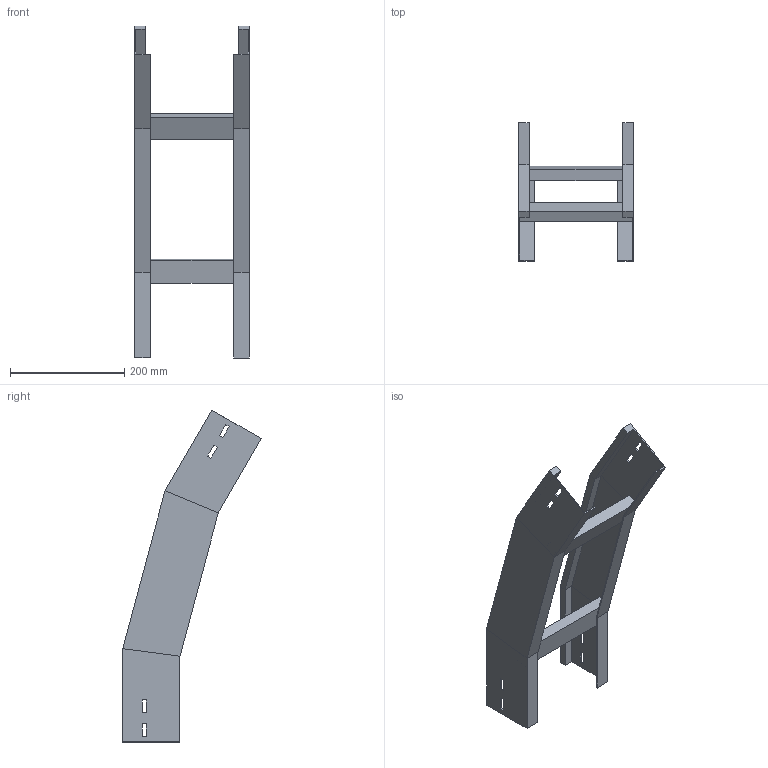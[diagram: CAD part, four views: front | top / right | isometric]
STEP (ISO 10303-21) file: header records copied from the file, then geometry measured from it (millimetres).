
FILE_DESCRIPTION (( 'STEP AP214' ), '1' );
FILE_NAME ('35B5D200.step', '2025-02-21T14:45:35', ( '' ), ( '' ), 'SwSTEP 2.0', 'SolidWorks 2023', '' );
FILE_SCHEMA (( 'AUTOMOTIVE_DESIGN' ));
Length unit declared in the file: millimetre
Products named in the file (3): TRAVERSINO_200; LONGH.DISCESA_30°_H100_R500; 35B5D200
Assembly tree (5 placements, depth 2):
  35B5D200
    LONGH.DISCESA_30°_H100_R500  x2
    TRAVERSINO_200  x3
Bounding box: 200 x 242.03 x 580.08 mm (x, y, z)
Volume: 997565.4 mm3; surface area: 409951.6 mm2
Topology: 5 solids, 5 shells, 102 faces, 244 edges, 152 vertices
Faces by surface type: plane 102
Entity records: 1480 total; most frequent: CARTESIAN_POINT 244, ORIENTED_EDGE 232, DIRECTION 228, EDGE_CURVE 116, VECTOR 116, LINE 116, VERTEX_POINT 72, AXIS2_PLACEMENT_3D 56
